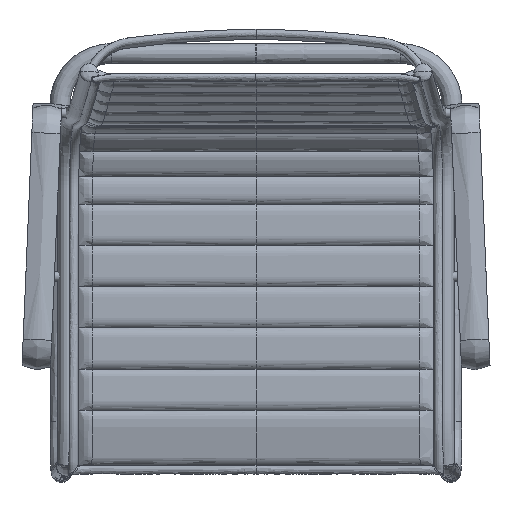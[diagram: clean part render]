
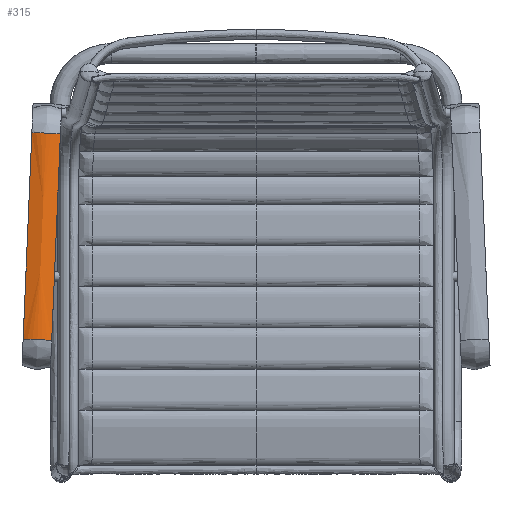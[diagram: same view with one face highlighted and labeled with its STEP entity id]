
A CAD part, top view. The second image highlights one B-rep face of the part: STEP entity #315.
In plain terms, the highlighted free-form (B-spline) face has degree [2, 3] with [3, 4] control points.
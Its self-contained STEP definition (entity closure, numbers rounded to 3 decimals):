
#315=ADVANCED_FACE('',(#671),#5163,.T.);
#671=FACE_OUTER_BOUND('',#1032,.T.);
#1032=EDGE_LOOP('',(#2207,#2208,#2209,#2210));
#2207=ORIENTED_EDGE('',*,*,#3310,.T.);
#2208=ORIENTED_EDGE('',*,*,#3314,.F.);
#2209=ORIENTED_EDGE('',*,*,#3313,.F.);
#2210=ORIENTED_EDGE('',*,*,#3312,.F.);
#3310=EDGE_CURVE('',#4795,#4796,#4225,.T.);
#3312=EDGE_CURVE('',#4795,#4797,#4227,.T.);
#3313=EDGE_CURVE('',#4797,#4798,#4228,.T.);
#3314=EDGE_CURVE('',#4798,#4796,#4229,.T.);
#4225=(
BOUNDED_CURVE()
B_SPLINE_CURVE(2,(#23723,#23724,#23725),.UNSPECIFIED.,.F.,.F.)
B_SPLINE_CURVE_WITH_KNOTS((3,3),(0.,37.482),.UNSPECIFIED.)
CURVE()
GEOMETRIC_REPRESENTATION_ITEM()
RATIONAL_B_SPLINE_CURVE((1.,0.882,1.))
REPRESENTATION_ITEM('')
);
#4227=(
BOUNDED_CURVE()
B_SPLINE_CURVE(3,(#23737,#23738,#23739,#23740),.UNSPECIFIED.,.F.,.F.)
B_SPLINE_CURVE_WITH_KNOTS((4,4),(0.,260.717),.UNSPECIFIED.)
CURVE()
GEOMETRIC_REPRESENTATION_ITEM()
RATIONAL_B_SPLINE_CURVE((1.,1.,1.,1.))
REPRESENTATION_ITEM('')
);
#4228=(
BOUNDED_CURVE()
B_SPLINE_CURVE(2,(#23741,#23742,#23743),.UNSPECIFIED.,.F.,.F.)
B_SPLINE_CURVE_WITH_KNOTS((3,3),(0.,37.482),.UNSPECIFIED.)
CURVE()
GEOMETRIC_REPRESENTATION_ITEM()
RATIONAL_B_SPLINE_CURVE((1.,0.882,1.))
REPRESENTATION_ITEM('')
);
#4229=(
BOUNDED_CURVE()
B_SPLINE_CURVE(3,(#23744,#23745,#23746,#23747),.UNSPECIFIED.,.F.,.F.)
B_SPLINE_CURVE_WITH_KNOTS((4,4),(-260.717,0.),.UNSPECIFIED.)
CURVE()
GEOMETRIC_REPRESENTATION_ITEM()
RATIONAL_B_SPLINE_CURVE((1.,1.,1.,1.))
REPRESENTATION_ITEM('')
);
#4795=VERTEX_POINT('',#23495);
#4796=VERTEX_POINT('',#23496);
#4797=VERTEX_POINT('',#23497);
#4798=VERTEX_POINT('',#23498);
#5163=(
BOUNDED_SURFACE()
B_SPLINE_SURFACE(2,3,((#23227,#23228,#23229,#23230),(#23231,#23232,#23233,
#23234),(#23235,#23236,#23237,#23238)),.UNSPECIFIED.,.F.,.F.,.F.)
B_SPLINE_SURFACE_WITH_KNOTS((3,3),(4,4),(0.,37.482),(0.,260.717),
 .UNSPECIFIED.)
GEOMETRIC_REPRESENTATION_ITEM()
RATIONAL_B_SPLINE_SURFACE(((1.,1.,1.,1.),(0.882,0.882,
0.882,0.882),(1.,1.,1.,1.)))
REPRESENTATION_ITEM('')
SURFACE()
);
#23227=CARTESIAN_POINT('',(-293.384,-93.974,659.454));
#23228=CARTESIAN_POINT('',(-289.712,-7.228,655.67));
#23229=CARTESIAN_POINT('',(-286.041,79.518,651.885));
#23230=CARTESIAN_POINT('',(-282.369,166.263,648.101));
#23231=CARTESIAN_POINT('',(-275.382,-94.317,669.045));
#23232=CARTESIAN_POINT('',(-271.711,-7.572,665.261));
#23233=CARTESIAN_POINT('',(-268.039,79.174,661.476));
#23234=CARTESIAN_POINT('',(-264.367,165.92,657.691));
#23235=CARTESIAN_POINT('',(-257.416,-95.496,659.454));
#23236=CARTESIAN_POINT('',(-253.744,-8.75,655.67));
#23237=CARTESIAN_POINT('',(-250.073,77.995,651.885));
#23238=CARTESIAN_POINT('',(-246.401,164.741,648.101));
#23495=CARTESIAN_POINT('',(-293.384,-93.974,659.454));
#23496=CARTESIAN_POINT('',(-257.416,-95.496,659.454));
#23497=CARTESIAN_POINT('',(-282.369,166.263,648.101));
#23498=CARTESIAN_POINT('',(-246.401,164.741,648.101));
#23723=CARTESIAN_POINT('',(-293.384,-93.974,659.454));
#23724=CARTESIAN_POINT('',(-275.382,-94.317,669.045));
#23725=CARTESIAN_POINT('',(-257.416,-95.496,659.454));
#23737=CARTESIAN_POINT('',(-293.384,-93.974,659.454));
#23738=CARTESIAN_POINT('',(-289.712,-7.228,655.67));
#23739=CARTESIAN_POINT('',(-286.041,79.518,651.885));
#23740=CARTESIAN_POINT('',(-282.369,166.263,648.101));
#23741=CARTESIAN_POINT('',(-282.369,166.263,648.101));
#23742=CARTESIAN_POINT('',(-264.367,165.92,657.691));
#23743=CARTESIAN_POINT('',(-246.401,164.741,648.101));
#23744=CARTESIAN_POINT('',(-246.401,164.741,648.101));
#23745=CARTESIAN_POINT('',(-250.073,77.995,651.885));
#23746=CARTESIAN_POINT('',(-253.744,-8.75,655.67));
#23747=CARTESIAN_POINT('',(-257.416,-95.496,659.454));
